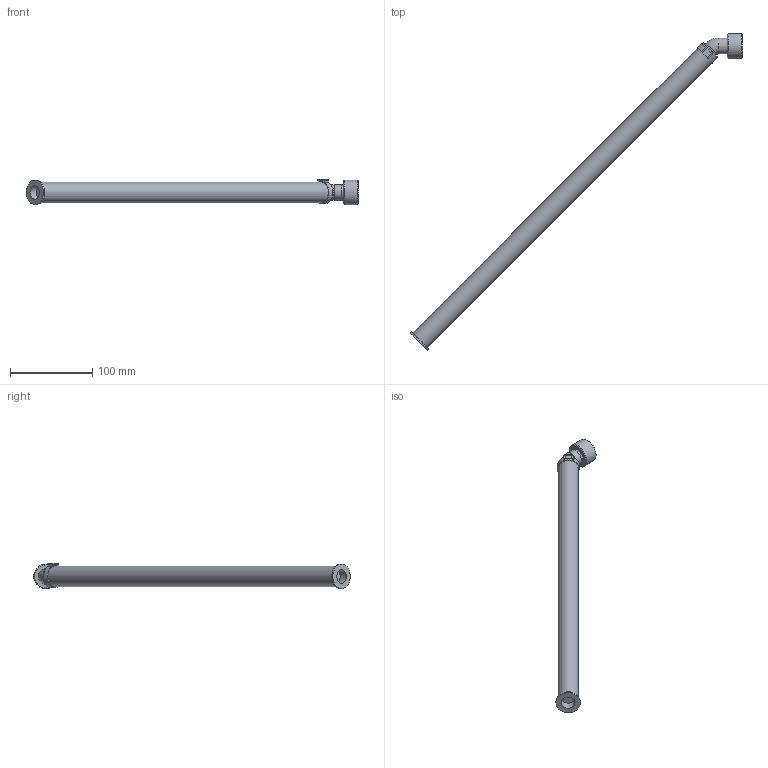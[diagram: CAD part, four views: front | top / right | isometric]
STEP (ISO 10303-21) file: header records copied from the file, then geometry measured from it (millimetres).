
FILE_DESCRIPTION( ( 'STEP AP203' ), '1' );
FILE_NAME( 'C:/Temp/Ganter_Step_05_03_2020/data/3_5/gn880_1/gn880_1_ans_abl/gn_880_1_b/Connector piece with drain hose GN 880.1-26-B-500-T.stp', '2020-03-12T13:42:31', ( 'License CC BY-ND 4.0' ), ( 'CADENAS' ), ' ', 'PARTsolutions', ' ' );
FILE_SCHEMA( ( 'CONFIG_CONTROL_DESIGN' ) );
Length unit declared in the file: millimetre
Products named in the file (6): Connector piece with drain hose GN 880.1-26-B-500-T; _Anschlussstueck mit Ablassschlauch GN 880.1-26-B-500-T_a; _Anschlussstueck mit Ablassschlauch GN 880.1-26-B-500-T_s; _Anschlussstueck mit Ablassschlauch GN 880.1-26-B-500-T_dk; _Anschlussstueck mit Ablassschlauch GN 880.1-26-B-500-T_sc; _Anschlussstueck mit Ablassschlauch GN 880.1-26-B-500-T_dk2
Assembly tree (5 placements, depth 2):
  Connector piece with drain hose GN 880.1-26-B-500-T
    _Anschlussstueck mit Ablassschlauch GN 880.1-26-B-500-T_a
    _Anschlussstueck mit Ablassschlauch GN 880.1-26-B-500-T_s
    _Anschlussstueck mit Ablassschlauch GN 880.1-26-B-500-T_dk
    _Anschlussstueck mit Ablassschlauch GN 880.1-26-B-500-T_sc
    _Anschlussstueck mit Ablassschlauch GN 880.1-26-B-500-T_dk2
Bounding box: 404.12 x 385.36 x 31 mm (x, y, z)
Volume: 116706.1 mm3; surface area: 84091.9 mm2
Topology: 5 solids, 5 shells, 60 faces, 110 edges, 71 vertices
Faces by surface type: plane 27, cylinder 25, torus 5, cone 3
Full cylindrical faces by diameter (mm): 11.5 x1, 12.9 x1, 13 x2, 16.4 x1, 17 x2, 19 x6, 22 x1, 24.376 x1, 25 x2, 30 x2
Entity records: 1557 total; most frequent: DIRECTION 270, CARTESIAN_POINT 217, ORIENTED_EDGE 162, AXIS2_PLACEMENT_3D 123, EDGE_LOOP 106, FACE_OUTER_BOUND 84, EDGE_CURVE 81, VERTEX_POINT 70
